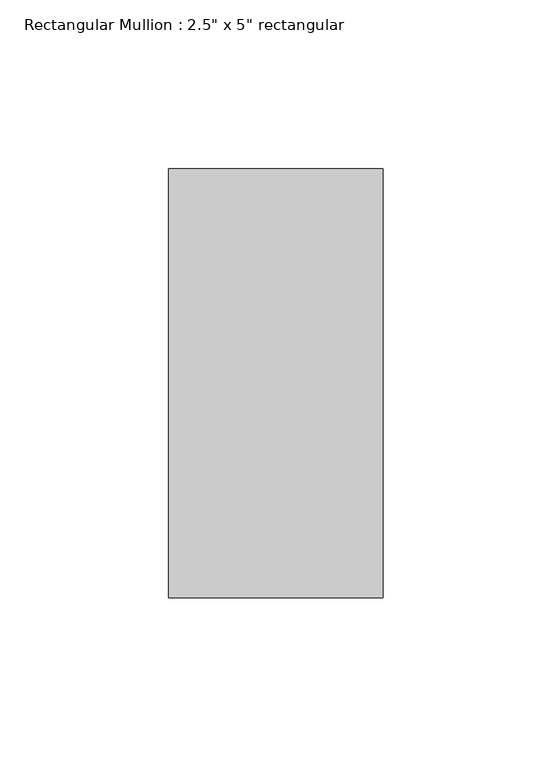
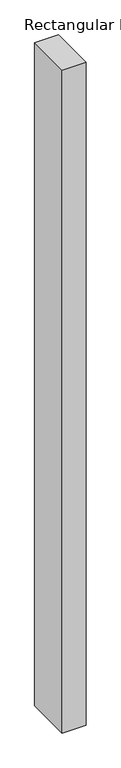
"""IFC4 building model written with IfcOpenShell, lengths in millimetres: member geometry."""

from ifc_helpers import new_model, si_unit, frame, origin, place, context, project, spatial, polyline, outline, extrude, source, transform, mapped, element, save


def member_9822c4e5(model_context):
    return source(origin(), model_context, "Body", "SweptSolid", [
        extrude(outline(polyline([(0.0, 63.5), (0.0, -63.5), (-63.5, -63.5), (-63.5, 63.5), (0.0, 63.5)])), frame((0.0, 0.0, -1873.25), z_axis=(0.0, 0.0, 1.0), x_axis=(1.0, 0.0, 0.0)), (0.0, 0.0, 1.0), 1873.25),
    ])


if __name__ == "__main__":
    model = new_model("IFC4")
    model_context = context("Model", 3, world=origin())
    ifc_project = project(units=[si_unit("LENGTHUNIT", "METRE", prefix="MILLI")], contexts=[model_context])
    site = spatial("IfcSite", under=ifc_project)
    building = spatial("IfcBuilding", under=site)
    placement = place(None, origin())
    member_shape = member_9822c4e5(model_context)
    element("IfcMember", 1, ObjectType="Rectangular Mullion : 2.5\" x 5\" rectangular", at=placement, inside=building, context=model_context, shape_type="MappedRepresentation", body=[
        mapped(member_shape, transform((0.0, 0.0, 0.0), x_axis=(1.0, 0.0, 0.0), y_axis=(0.0, 1.0, 0.0), z_axis=(0.0, 0.0, 1.0))),
    ])
    save(model, "model.ifc")
